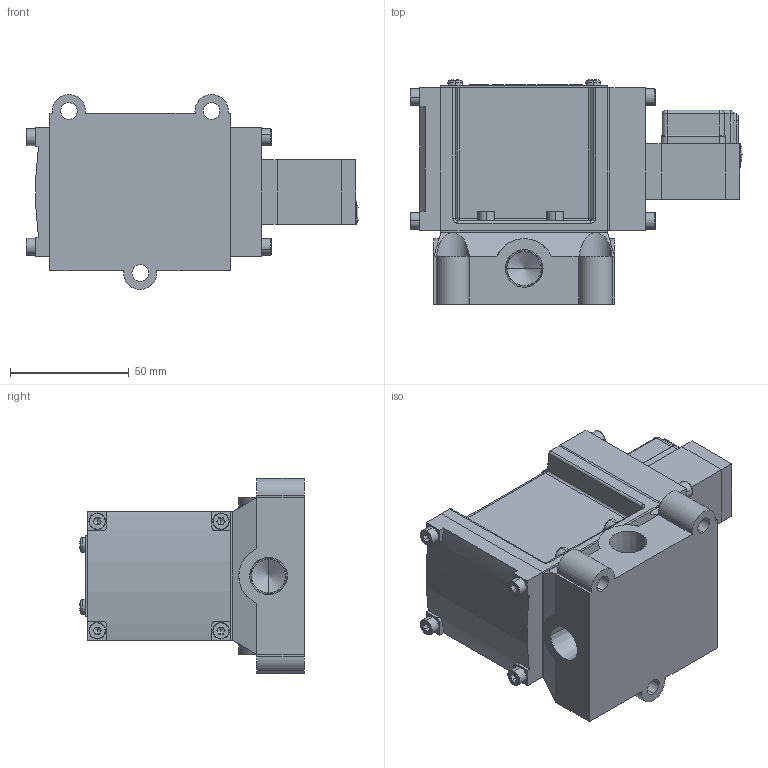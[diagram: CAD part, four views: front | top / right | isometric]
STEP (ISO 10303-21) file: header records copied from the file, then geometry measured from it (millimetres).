
FILE_DESCRIPTION (( 'STEP AP203' ), '1' );
FILE_NAME ('PMS2408#-03-#G#.STEP', '2016-03-09T08:34:17', ( 'Sam Lin' ), ( '' ), 'SwSTEP 2.0', 'SolidWorks 2013', '' );
FILE_SCHEMA (( 'CONFIG_CONTROL_DESIGN' ));
Length unit declared in the file: metre
Products named in the file (17): PMS2408-2; PMS2408-3; PMS2408-4; PMS2408-5; PMS2408-6; PMS2408-7; PMS2408-8; PM08-MARK-2408; PM06-C3-M4_1; PMS2408-1(03); ISO 4762 M4 x 10; PM06-C1_1; PM06-C4_1; PM06-C6-M3_1; PM06-C5_1; PM06-G1; PMS2408#-03-#G#
Assembly tree (29 placements, depth 2):
  PMS2408#-03-#G#
    PMS2408-2
    PMS2408-3
    PMS2408-4
    PMS2408-5
    PMS2408-6
    PMS2408-7
    PMS2408-8
    PM08-MARK-2408
    PM06-C3-M4_1  x3
    PMS2408-1(03)
    ISO 4762 M4 x 10  x11
    PM06-C1_1
    PM06-C4_1
    PM06-C6-M3_1  x2
    PM06-C5_1
    PM06-G1
Bounding box: 139.5 x 94.35 x 82 mm (x, y, z)
Volume: 415457.6 mm3; surface area: 103879.9 mm2
Topology: 35 solids, 35 shells, 877 faces, 2079 edges, 1268 vertices
Faces by surface type: plane 456, cylinder 206, cone 109, bspline 102, torus 4
Entity records: 18463 total; most frequent: CARTESIAN_POINT 4523, DIRECTION 2478, ORIENTED_EDGE 2410, EDGE_CURVE 1205, AXIS2_PLACEMENT_3D 893, VERTEX_POINT 765, LINE 692, VECTOR 692
